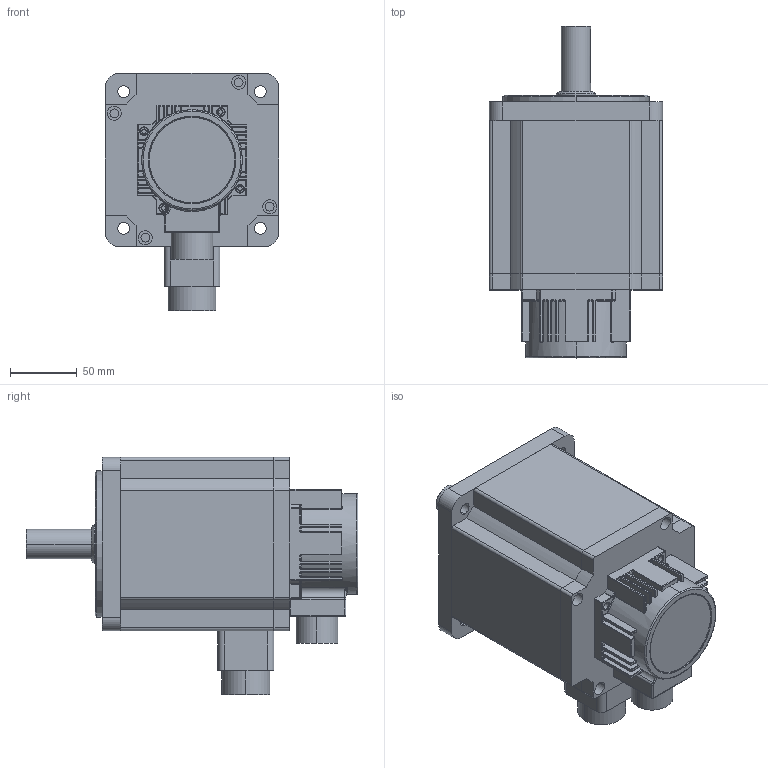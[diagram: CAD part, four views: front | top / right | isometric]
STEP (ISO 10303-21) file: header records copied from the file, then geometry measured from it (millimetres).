
FILE_DESCRIPTION (( 'STEP AP214' ), '1' );
FILE_NAME ('RSN-M13J7725A.STEP', '2022-01-14T08:27:59', ( '' ), ( '' ), 'SwSTEP 2.0', 'SolidWorks 2020', '' );
FILE_SCHEMA (( 'AUTOMOTIVE_DESIGN' ));
Length unit declared in the file: millimetre
Products named in the file (5): RSN-M13J7725A; S130DG-B-001DY; S130DG-C-001DY; S130DG-A-001DY; 130SF2000-K2282.5-001
Assembly tree (4 placements, depth 2):
  RSN-M13J7725A
    S130DG-A-001DY
    S130DG-B-001DY
    S130DG-C-001DY
    130SF2000-K2282.5-001
Bounding box: 130 x 249 x 178 mm (x, y, z)
Volume: 2293056.6 mm3; surface area: 300270.9 mm2
Topology: 9 solids, 9 shells, 835 faces, 2005 edges, 1156 vertices
Faces by surface type: cylinder 405, plane 188, torus 126, sphere 58, bspline 32, cone 26
Entity records: 27352 total; most frequent: CARTESIAN_POINT 6326, DIRECTION 4434, ORIENTED_EDGE 3872, EDGE_CURVE 1936, AXIS2_PLACEMENT_3D 1827, VERTEX_POINT 1156, CIRCLE 1017, EDGE_LOOP 926
